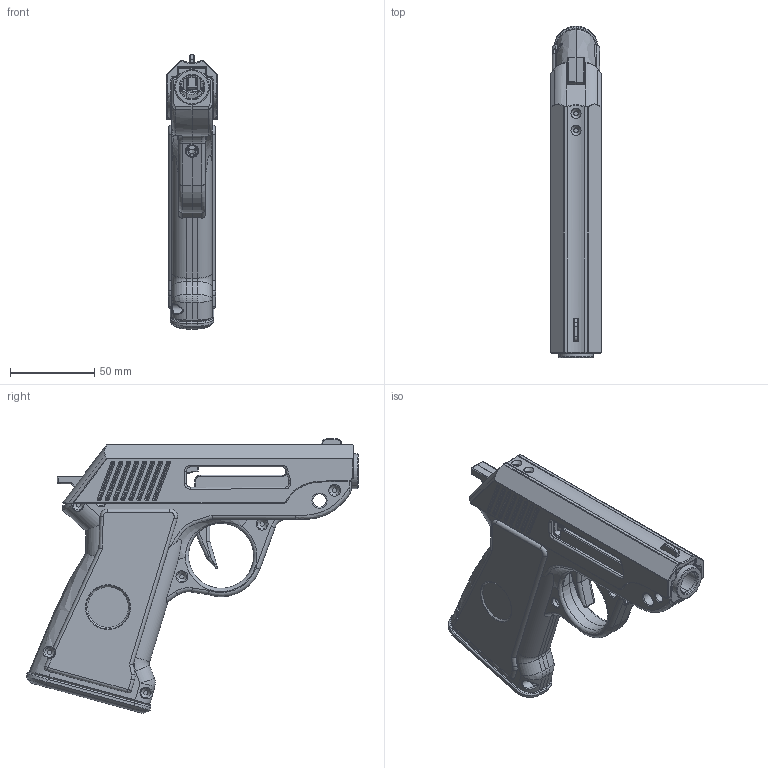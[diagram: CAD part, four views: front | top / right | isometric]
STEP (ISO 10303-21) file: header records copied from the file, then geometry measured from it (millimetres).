
FILE_DESCRIPTION(/* description */ (''),/* implementation_level */ '2;1');
FILE_NAME(/* name */ 'step_TF2 Pistal v222.step',/* time_stamp */ '2025-06-08T13:41:36-07:00',/* author */ (''),/* organization */ (''),/* preprocessor_version */ 'ST-DEVELOPER v20.1',/* originating_system */ 'Autodesk Translation Framework v14.10.0.0',/* authorisation */ '');
FILE_SCHEMA (('AUTOMOTIVE_DESIGN { 1 0 10303 214 3 1 1 }'));
Products named in the file (1): Dante
Bounding box: 30 x 196.79 x 162.47 mm (x, y, z)
Volume: 271630.8 mm3; surface area: 171404.4 mm2
Topology: 15 solids, 15 shells, 1432 faces, 3485 edges, 2097 vertices
Faces by surface type: cylinder 502, plane 406, bspline 251, torus 155, sphere 103, cone 15
Full cylindrical faces by diameter (mm): 2.8 x18, 6 x7, 6.483 x1, 6.697 x2, 7.275 x1, 8 x2, 14.206 x1, 18.148 x1, 20.651 x1, 38.59 x2
Entity records: 52497 total; most frequent: CARTESIAN_POINT 19609, ORIENTED_EDGE 6958, DIRECTION 6763, EDGE_CURVE 3479, AXIS2_PLACEMENT_3D 2607, VERTEX_POINT 2097, LINE 1549, VECTOR 1549
